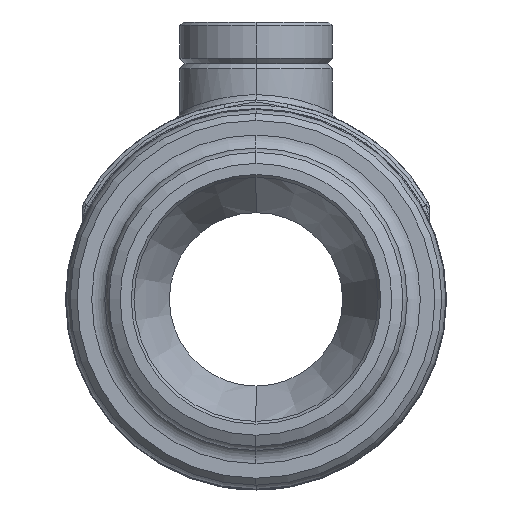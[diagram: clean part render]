
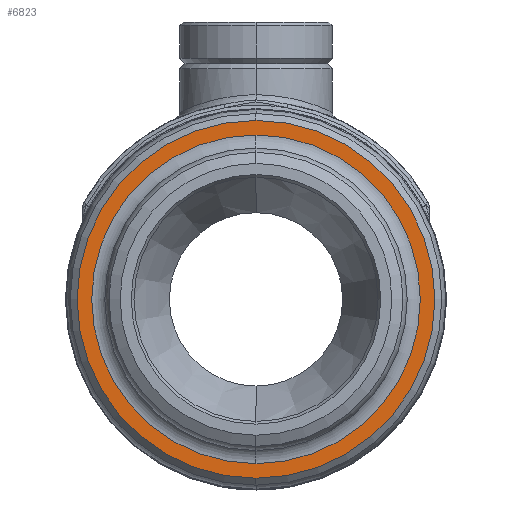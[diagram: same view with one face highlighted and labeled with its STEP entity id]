
A CAD part, left-side view. The second image highlights one B-rep face of the part: STEP entity #6823.
In plain terms, the highlighted planar face has unit normal (-1, 0, 0).
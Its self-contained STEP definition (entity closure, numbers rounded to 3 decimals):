
#985=CARTESIAN_POINT('',(-47.,0.,0.));
#986=DIRECTION('',(-1.,0.,0.));
#987=DIRECTION('',(0.,0.,1.));
#988=AXIS2_PLACEMENT_3D('',#985,#986,#987);
#990=CARTESIAN_POINT('',(-47.,0.,0.));
#991=DIRECTION('',(1.,0.,0.));
#992=DIRECTION('',(0.,0.,1.));
#993=AXIS2_PLACEMENT_3D('',#990,#991,#992);
#995=CARTESIAN_POINT('',(-47.,0.,0.));
#996=DIRECTION('',(1.,0.,0.));
#997=DIRECTION('',(0.,0.,1.));
#998=AXIS2_PLACEMENT_3D('',#995,#996,#997);
#1000=CARTESIAN_POINT('',(-47.,0.,0.));
#1001=DIRECTION('',(-1.,0.,0.));
#1002=DIRECTION('',(0.,0.,1.));
#1003=AXIS2_PLACEMENT_3D('',#1000,#1001,#1002);
#4813=CARTESIAN_POINT('',(-47.,0.,23.7));
#4815=VERTEX_POINT('',#4813);
#4817=CARTESIAN_POINT('',(-47.,0.,-23.7));
#4819=VERTEX_POINT('',#4817);
#4845=CARTESIAN_POINT('',(-47.,0.,25.8));
#4846=CARTESIAN_POINT('',(-47.,0.,-25.8));
#4847=VERTEX_POINT('',#4845);
#4848=VERTEX_POINT('',#4846);
#6808=CARTESIAN_POINT('',(-47.,0.,0.));
#6809=DIRECTION('',(1.,0.,0.));
#6810=DIRECTION('',(0.,0.,1.));
#6811=AXIS2_PLACEMENT_3D('',#6808,#6809,#6810);
#6812=PLANE('',#6811);
#6814=ORIENTED_EDGE('',*,*,#6813,.T.);
#6816=ORIENTED_EDGE('',*,*,#6815,.F.);
#6817=EDGE_LOOP('',(#6814,#6816));
#6818=FACE_OUTER_BOUND('',#6817,.F.);
#6819=ORIENTED_EDGE('',*,*,#6790,.T.);
#6820=ORIENTED_EDGE('',*,*,#6801,.F.);
#6821=EDGE_LOOP('',(#6819,#6820));
#6822=FACE_BOUND('',#6821,.F.);
#6823=ADVANCED_FACE('',(#6818,#6822),#6812,.F.);
#989=CIRCLE('',#988,23.7);
#994=CIRCLE('',#993,23.7);
#999=CIRCLE('',#998,25.8);
#1004=CIRCLE('',#1003,25.8);
#6790=EDGE_CURVE('',#4815,#4819,#989,.T.);
#6801=EDGE_CURVE('',#4815,#4819,#994,.T.);
#6813=EDGE_CURVE('',#4847,#4848,#999,.T.);
#6815=EDGE_CURVE('',#4847,#4848,#1004,.T.);
